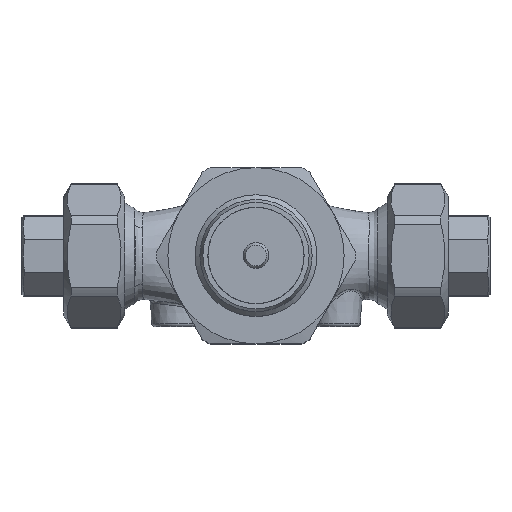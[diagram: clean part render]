
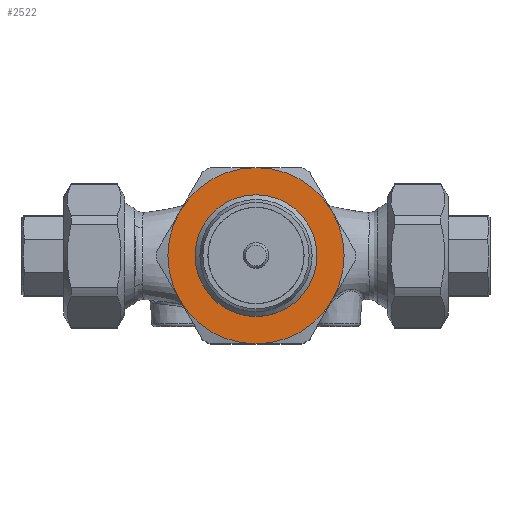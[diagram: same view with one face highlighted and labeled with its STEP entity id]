
A CAD part, top view. The second image highlights one B-rep face of the part: STEP entity #2522.
In plain terms, the highlighted planar face has unit normal (0, 0, 1).
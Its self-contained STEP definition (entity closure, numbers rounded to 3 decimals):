
#2522=ADVANCED_FACE('',(#3312,#3313),#3068,.T.);
#3068=PLANE('',#10222);
#3312=FACE_BOUND('',#3630,.T.);
#3313=FACE_BOUND('',#3631,.T.);
#3630=EDGE_LOOP('',(#4708));
#3631=EDGE_LOOP('',(#4709,#4710,#4711,#4712,#4713,#4714));
#4708=ORIENTED_EDGE('',*,*,#8284,.F.);
#4709=ORIENTED_EDGE('',*,*,#8233,.T.);
#4710=ORIENTED_EDGE('',*,*,#8237,.T.);
#4711=ORIENTED_EDGE('',*,*,#8245,.T.);
#4712=ORIENTED_EDGE('',*,*,#8249,.T.);
#4713=ORIENTED_EDGE('',*,*,#8277,.T.);
#4714=ORIENTED_EDGE('',*,*,#8239,.T.);
#7245=VERTEX_POINT('',#20288);
#7247=VERTEX_POINT('',#20295);
#7250=VERTEX_POINT('',#20309);
#7252=VERTEX_POINT('',#20318);
#7256=VERTEX_POINT('',#20337);
#7259=VERTEX_POINT('',#20351);
#7274=VERTEX_POINT('',#20458);
#8233=EDGE_CURVE('',#7245,#7247,#9544,.T.);
#8237=EDGE_CURVE('',#7247,#7250,#9546,.T.);
#8239=EDGE_CURVE('',#7252,#7245,#9547,.T.);
#8245=EDGE_CURVE('',#7250,#7256,#9550,.T.);
#8249=EDGE_CURVE('',#7256,#7259,#9552,.T.);
#8277=EDGE_CURVE('',#7259,#7252,#9559,.T.);
#8284=EDGE_CURVE('',#7274,#7274,#9561,.T.);
#9544=CIRCLE('',#10186,27.5);
#9546=CIRCLE('',#10189,27.5);
#9547=CIRCLE('',#10191,27.5);
#9550=CIRCLE('',#10195,27.5);
#9552=CIRCLE('',#10198,27.5);
#9559=CIRCLE('',#10216,27.5);
#9561=CIRCLE('',#10221,19.);
#10186=AXIS2_PLACEMENT_3D('',#20296,#11514,#11515);
#10189=AXIS2_PLACEMENT_3D('',#20310,#11520,#11521);
#10191=AXIS2_PLACEMENT_3D('',#20317,#11524,#11525);
#10195=AXIS2_PLACEMENT_3D('',#20338,#11532,#11533);
#10198=AXIS2_PLACEMENT_3D('',#20352,#11538,#11539);
#10216=AXIS2_PLACEMENT_3D('',#20436,#11584,#11585);
#10221=AXIS2_PLACEMENT_3D('',#20457,#11596,#11597);
#10222=AXIS2_PLACEMENT_3D('',#20459,#11598,#11599);
#11514=DIRECTION('',(0.,0.,1.));
#11515=DIRECTION('',(-1.,0.,0.));
#11520=DIRECTION('',(0.,0.,1.));
#11521=DIRECTION('',(-1.,0.,0.));
#11524=DIRECTION('',(0.,0.,1.));
#11525=DIRECTION('',(-1.,0.,0.));
#11532=DIRECTION('',(0.,0.,1.));
#11533=DIRECTION('',(-1.,0.,0.));
#11538=DIRECTION('',(0.,0.,1.));
#11539=DIRECTION('',(-1.,0.,0.));
#11584=DIRECTION('',(0.,0.,1.));
#11585=DIRECTION('',(-1.,0.,0.));
#11596=DIRECTION('',(0.,0.,1.));
#11597=DIRECTION('',(1.,0.,0.));
#11598=DIRECTION('',(0.,0.,1.));
#11599=DIRECTION('',(-1.,0.,0.));
#20288=CARTESIAN_POINT('',(-23.816,-13.75,48.));
#20295=CARTESIAN_POINT('',(0.,-27.5,48.));
#20296=CARTESIAN_POINT('',(0.,0.,48.));
#20309=CARTESIAN_POINT('',(23.816,-13.75,48.));
#20310=CARTESIAN_POINT('',(0.,0.,48.));
#20317=CARTESIAN_POINT('',(0.,0.,48.));
#20318=CARTESIAN_POINT('',(-23.816,13.75,48.));
#20337=CARTESIAN_POINT('',(23.816,13.75,48.));
#20338=CARTESIAN_POINT('',(0.,0.,48.));
#20351=CARTESIAN_POINT('',(0.,27.5,48.));
#20352=CARTESIAN_POINT('',(0.,0.,48.));
#20436=CARTESIAN_POINT('',(0.,0.,48.));
#20457=CARTESIAN_POINT('',(0.,0.,48.));
#20458=CARTESIAN_POINT('',(19.,0.,48.));
#20459=CARTESIAN_POINT('',(-19.5,0.,48.));
